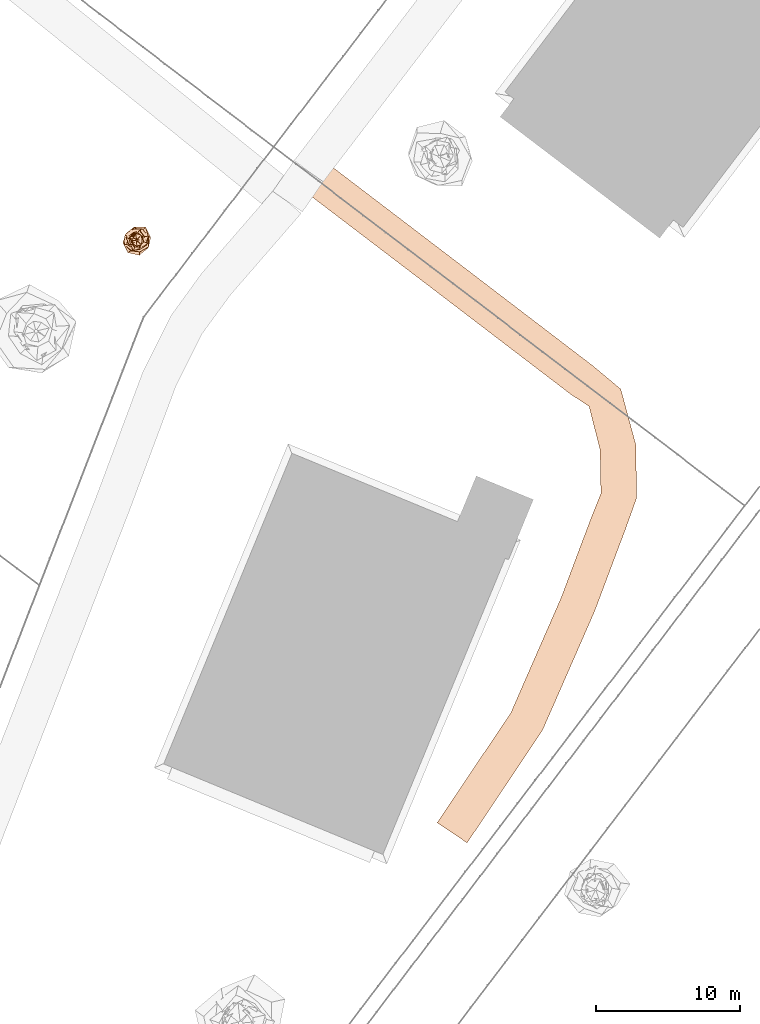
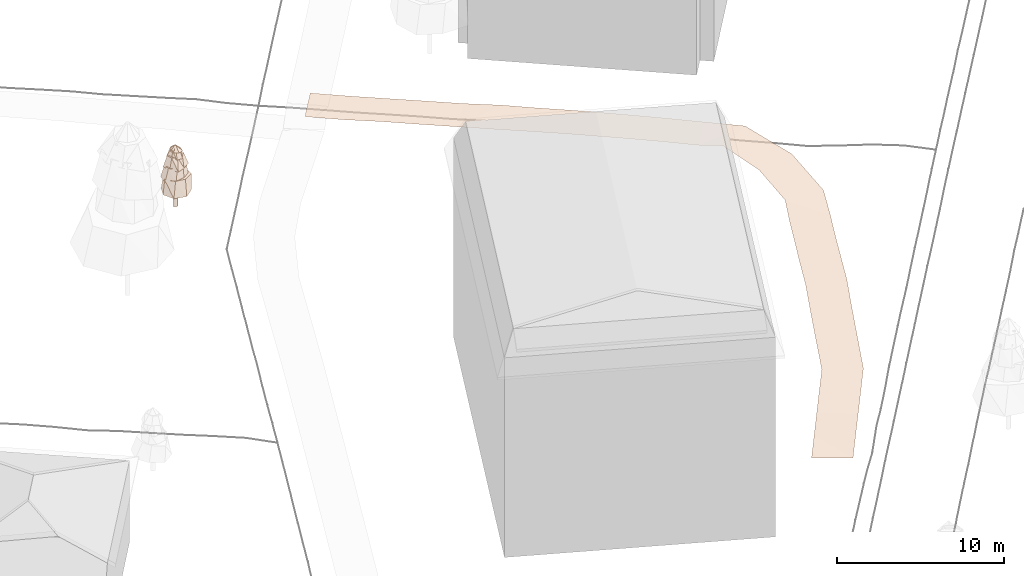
# Not in any storey, part 81 of 88: 2 geographic elements.
"""IFC4 model written with IfcOpenShell, lengths in metres."""

from ifc_helpers import new_model, si_unit, frame, origin_with_axes, place, context, subcontext, project, spatial, circle, extrude, faceted_brep, triangles, element, save


model = new_model("IFC4")

# Units and contexts
model_context = context("Model", 3, precision=1e-05, world=origin_with_axes())
body_context = subcontext(model_context, "Body", "Model", "MODEL_VIEW")
ifc_project = project(units=[si_unit("LENGTHUNIT", "METRE"), si_unit("AREAUNIT", "SQUARE_METRE"), si_unit("VOLUMEUNIT", "CUBIC_METRE"), si_unit("PLANEANGLEUNIT", "RADIAN")], contexts=[model_context])

# Sites
site_1_placement = place(None, origin_with_axes())
site_1 = spatial("IfcSite", under=ifc_project, at=site_1_placement, Name="CH907857693633", CompositionType="ELEMENT")
site_2_placement = place(None, origin_with_axes())
site_2 = spatial("IfcSite", under=site_1, at=site_2_placement, Name="Vegetation", CompositionType="ELEMENT")

# Geographic element
geographic_element_1_placement = place(None, frame((55.5640000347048, 160.037003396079, 7.91241455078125), z_axis=(0.0, 0.0, 1.0), x_axis=(1.0, 0.0, 0.0)))
element("IfcGeographicElement", 1, at=geographic_element_1_placement, inside=site_2, Name="Tree_einzelbaum", ObjectType="VEGETATION", PredefinedType="USERDEFINED", context=body_context, shape_type="Brep", body=[
    extrude(circle(Radius=0.15), origin_with_axes(), (0.0, 0.0, 1.0), 1.24176831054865),
    faceted_brep([(0.796583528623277, -0.547024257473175, 1.24176831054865), (0.193895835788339, -1.04392016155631, 1.24176831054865), (-0.592050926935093, -0.862151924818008, 1.24176831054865), (-0.946980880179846, -0.175890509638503, 1.24176831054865), (-0.70707329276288, 0.485556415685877, 1.24176831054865), (-0.168086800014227, 0.904966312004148, 1.24176831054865), (0.625172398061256, 0.910383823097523, 1.24176831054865), (0.985967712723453, 0.183131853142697, 1.24176831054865), (0.828826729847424, 0.241607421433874, 2.36745693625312), (0.328140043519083, 0.598162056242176, 2.36745693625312), (-0.231807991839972, 0.795210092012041, 2.36745693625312), (-0.616803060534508, 0.338366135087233, 2.36745693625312), (-0.884571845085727, -0.257857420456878, 2.36745693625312), (-0.402553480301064, -0.733809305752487, 2.36745693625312), (0.236427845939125, -0.811058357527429, 2.36745693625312), (0.841793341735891, -0.461791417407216, 2.36745693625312), (0.985967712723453, 0.183131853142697, 1.24176831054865), (0.625172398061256, 0.910383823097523, 1.24176831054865), (0.328140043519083, 0.598162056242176, 2.36745693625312), (0.828826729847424, 0.241607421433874, 2.36745693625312), (0.625172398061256, 0.910383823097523, 1.24176831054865), (-0.168086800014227, 0.904966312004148, 1.24176831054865), (-0.231807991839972, 0.795210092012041, 2.36745693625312), (0.328140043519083, 0.598162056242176, 2.36745693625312), (-0.168086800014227, 0.904966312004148, 1.24176831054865), (-0.70707329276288, 0.485556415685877, 1.24176831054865), (-0.616803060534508, 0.338366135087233, 2.36745693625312), (-0.231807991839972, 0.795210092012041, 2.36745693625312), (-0.70707329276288, 0.485556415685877, 1.24176831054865), (-0.946980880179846, -0.175890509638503, 1.24176831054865), (-0.884571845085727, -0.257857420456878, 2.36745693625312), (-0.616803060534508, 0.338366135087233, 2.36745693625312), (-0.946980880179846, -0.175890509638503, 1.24176831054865), (-0.592050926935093, -0.862151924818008, 1.24176831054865), (-0.402553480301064, -0.733809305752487, 2.36745693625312), (-0.884571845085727, -0.257857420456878, 2.36745693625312), (-0.592050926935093, -0.862151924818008, 1.24176831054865), (0.193895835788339, -1.04392016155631, 1.24176831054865), (0.236427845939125, -0.811058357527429, 2.36745693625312), (-0.402553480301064, -0.733809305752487, 2.36745693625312), (0.193895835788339, -1.04392016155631, 1.24176831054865), (0.796583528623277, -0.547024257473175, 1.24176831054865), (0.841793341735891, -0.461791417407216, 2.36745693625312), (0.236427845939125, -0.811058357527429, 2.36745693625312), (0.796583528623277, -0.547024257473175, 1.24176831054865), (0.985967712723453, 0.183131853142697, 1.24176831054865), (0.828826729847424, 0.241607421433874, 2.36745693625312), (0.841793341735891, -0.461791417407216, 2.36745693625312)], [[[0, 1, 2, 3, 4, 5, 6, 7]], [[8, 9, 10, 11, 12, 13, 14, 15]], [[16, 17, 18, 19]], [[20, 21, 22, 23]], [[24, 25, 26, 27]], [[28, 29, 30, 31]], [[32, 33, 34, 35]], [[36, 37, 38, 39]], [[40, 41, 42, 43]], [[44, 45, 46, 47]]]),
    faceted_brep([(0.725189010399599, -0.3531963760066, 2.19860364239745), (0.228966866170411, -0.663761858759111, 2.19860364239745), (-0.364796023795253, -0.749005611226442, 2.19860364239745), (-0.889024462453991, -0.306671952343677, 2.19860364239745), (-0.796820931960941, 0.388084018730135, 2.19860364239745), (-0.270157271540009, 0.783170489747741, 2.19860364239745), (0.385798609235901, 0.792128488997, 2.19860364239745), (0.82858284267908, 0.285822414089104, 2.19860364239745), (0.547489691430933, 0.252530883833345, 3.1320130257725), (0.250969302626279, 0.680707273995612, 3.1320130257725), (-0.237285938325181, 0.51443848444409, 3.1320130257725), (-0.606721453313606, 0.22369154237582, 3.1320130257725), (-0.653762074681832, -0.301549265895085, 3.1320130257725), (-0.221247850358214, -0.600093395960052, 3.1320130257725), (0.246618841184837, -0.534672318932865, 3.1320130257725), (0.619263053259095, -0.22831549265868, 3.1320130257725), (0.82858284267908, 0.285822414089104, 2.19860364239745), (0.385798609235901, 0.792128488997, 2.19860364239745), (0.250969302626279, 0.680707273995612, 3.1320130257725), (0.547489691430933, 0.252530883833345, 3.1320130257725), (0.385798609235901, 0.792128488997, 2.19860364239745), (-0.270157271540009, 0.783170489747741, 2.19860364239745), (-0.237285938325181, 0.51443848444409, 3.1320130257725), (0.250969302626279, 0.680707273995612, 3.1320130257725), (-0.270157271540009, 0.783170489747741, 2.19860364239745), (-0.796820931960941, 0.388084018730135, 2.19860364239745), (-0.606721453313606, 0.22369154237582, 3.1320130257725), (-0.237285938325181, 0.51443848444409, 3.1320130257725), (-0.796820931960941, 0.388084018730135, 2.19860364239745), (-0.889024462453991, -0.306671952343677, 2.19860364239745), (-0.653762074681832, -0.301549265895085, 3.1320130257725), (-0.606721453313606, 0.22369154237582, 3.1320130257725), (-0.889024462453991, -0.306671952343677, 2.19860364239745), (-0.364796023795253, -0.749005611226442, 2.19860364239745), (-0.221247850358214, -0.600093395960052, 3.1320130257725), (-0.653762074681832, -0.301549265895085, 3.1320130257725), (-0.364796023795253, -0.749005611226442, 2.19860364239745), (0.228966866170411, -0.663761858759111, 2.19860364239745), (0.246618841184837, -0.534672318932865, 3.1320130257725), (-0.221247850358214, -0.600093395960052, 3.1320130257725), (0.228966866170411, -0.663761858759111, 2.19860364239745), (0.725189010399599, -0.3531963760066, 2.19860364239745), (0.619263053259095, -0.22831549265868, 3.1320130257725), (0.246618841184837, -0.534672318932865, 3.1320130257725), (0.725189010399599, -0.3531963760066, 2.19860364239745), (0.82858284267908, 0.285822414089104, 2.19860364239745), (0.547489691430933, 0.252530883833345, 3.1320130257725), (0.619263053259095, -0.22831549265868, 3.1320130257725)], [[[0, 1, 2, 3, 4, 5, 6, 7]], [[8, 9, 10, 11, 12, 13, 14, 15]], [[16, 17, 18, 19]], [[20, 21, 22, 23]], [[24, 25, 26, 27]], [[28, 29, 30, 31]], [[32, 33, 34, 35]], [[36, 37, 38, 39]], [[40, 41, 42, 43]], [[44, 45, 46, 47]]]),
    faceted_brep([(0.78287347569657, -0.228873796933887, 2.99200161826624), (0.297666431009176, -0.543616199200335, 2.99200161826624), (-0.217221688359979, -0.743016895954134, 2.99200161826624), (-0.563069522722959, -0.308318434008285, 2.99200161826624), (-0.726165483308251, 0.212295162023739, 2.99200161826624), (-0.265523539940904, 0.484914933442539, 2.99200161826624), (0.204391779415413, 0.699131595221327, 2.99200161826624), (0.526632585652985, 0.288366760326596, 2.99200161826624), (0.393785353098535, 0.269966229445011, 3.80338015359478), (0.097343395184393, 0.521824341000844, 3.80338015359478), (-0.273263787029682, 0.398595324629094, 3.80338015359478), (-0.513830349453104, 0.0958521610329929, 3.80338015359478), (-0.414243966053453, -0.283991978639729, 3.80338015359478), (-0.0743477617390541, -0.39855268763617, 3.80338015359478), (0.267422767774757, -0.390075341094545, 3.80338015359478), (0.509701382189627, -0.0950819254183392, 3.80338015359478), (0.526632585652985, 0.288366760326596, 2.99200161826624), (0.204391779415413, 0.699131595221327, 2.99200161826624), (0.097343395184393, 0.521824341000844, 3.80338015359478), (0.393785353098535, 0.269966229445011, 3.80338015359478), (0.204391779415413, 0.699131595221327, 2.99200161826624), (-0.265523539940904, 0.484914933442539, 2.99200161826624), (-0.273263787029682, 0.398595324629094, 3.80338015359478), (0.097343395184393, 0.521824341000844, 3.80338015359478), (-0.265523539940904, 0.484914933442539, 2.99200161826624), (-0.726165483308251, 0.212295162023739, 2.99200161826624), (-0.513830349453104, 0.0958521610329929, 3.80338015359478), (-0.273263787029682, 0.398595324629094, 3.80338015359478), (-0.726165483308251, 0.212295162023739, 2.99200161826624), (-0.563069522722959, -0.308318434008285, 2.99200161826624), (-0.414243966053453, -0.283991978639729, 3.80338015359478), (-0.513830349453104, 0.0958521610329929, 3.80338015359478), (-0.563069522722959, -0.308318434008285, 2.99200161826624), (-0.217221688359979, -0.743016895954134, 2.99200161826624), (-0.0743477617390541, -0.39855268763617, 3.80338015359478), (-0.414243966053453, -0.283991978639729, 3.80338015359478), (-0.217221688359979, -0.743016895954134, 2.99200161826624), (0.297666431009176, -0.543616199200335, 2.99200161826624), (0.267422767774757, -0.390075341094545, 3.80338015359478), (-0.0743477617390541, -0.39855268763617, 3.80338015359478), (0.297666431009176, -0.543616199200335, 2.99200161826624), (0.78287347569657, -0.228873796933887, 2.99200161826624), (0.509701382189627, -0.0950819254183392, 3.80338015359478), (0.267422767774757, -0.390075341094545, 3.80338015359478), (0.78287347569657, -0.228873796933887, 2.99200161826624), (0.526632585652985, 0.288366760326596, 2.99200161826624), (0.393785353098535, 0.269966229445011, 3.80338015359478), (0.509701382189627, -0.0950819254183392, 3.80338015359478)], [[[0, 1, 2, 3, 4, 5, 6, 7]], [[8, 9, 10, 11, 12, 13, 14, 15]], [[16, 17, 18, 19]], [[20, 21, 22, 23]], [[24, 25, 26, 27]], [[28, 29, 30, 31]], [[32, 33, 34, 35]], [[36, 37, 38, 39]], [[40, 41, 42, 43]], [[44, 45, 46, 47]]]),
    faceted_brep([(0.399467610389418, -0.140665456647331, 3.6816733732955), (0.232269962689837, -0.484759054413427, 3.6816733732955), (-0.164834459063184, -0.468103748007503, 3.6816733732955), (-0.367032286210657, -0.175861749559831, 3.6816733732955), (-0.518006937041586, 0.182406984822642, 3.6816733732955), (-0.194156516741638, 0.405214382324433, 3.6816733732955), (0.148562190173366, 0.421893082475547, 3.6816733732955), (0.458392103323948, 0.219636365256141, 3.6816733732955), (0.264228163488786, 0.160847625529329, 4.1849373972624), (0.0809291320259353, 0.332761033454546, 4.1849373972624), (-0.183020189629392, 0.3006515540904, 4.1849373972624), (-0.284864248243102, 0.0692803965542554, 4.1849373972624), (-0.258424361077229, -0.157314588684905, 4.1849373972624), (-0.0691859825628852, -0.284476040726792, 4.1849373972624), (0.154421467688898, -0.253671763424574, 4.1849373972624), (0.254649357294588, -0.0619319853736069, 4.1849373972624), (0.458392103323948, 0.219636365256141, 3.6816733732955), (0.148562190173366, 0.421893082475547, 3.6816733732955), (0.0809291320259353, 0.332761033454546, 4.1849373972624), (0.264228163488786, 0.160847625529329, 4.1849373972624), (0.148562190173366, 0.421893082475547, 3.6816733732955), (-0.194156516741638, 0.405214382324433, 3.6816733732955), (-0.183020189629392, 0.3006515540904, 4.1849373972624), (0.0809291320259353, 0.332761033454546, 4.1849373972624), (-0.194156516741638, 0.405214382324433, 3.6816733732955), (-0.518006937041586, 0.182406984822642, 3.6816733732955), (-0.284864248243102, 0.0692803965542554, 4.1849373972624), (-0.183020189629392, 0.3006515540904, 4.1849373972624), (-0.518006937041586, 0.182406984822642, 3.6816733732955), (-0.367032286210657, -0.175861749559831, 3.6816733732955), (-0.258424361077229, -0.157314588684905, 4.1849373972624), (-0.284864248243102, 0.0692803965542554, 4.1849373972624), (-0.367032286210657, -0.175861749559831, 3.6816733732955), (-0.164834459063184, -0.468103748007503, 3.6816733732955), (-0.0691859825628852, -0.284476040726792, 4.1849373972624), (-0.258424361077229, -0.157314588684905, 4.1849373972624), (-0.164834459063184, -0.468103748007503, 3.6816733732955), (0.232269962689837, -0.484759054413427, 3.6816733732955), (0.154421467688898, -0.253671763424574, 4.1849373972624), (-0.0691859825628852, -0.284476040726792, 4.1849373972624), (0.232269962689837, -0.484759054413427, 3.6816733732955), (0.399467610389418, -0.140665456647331, 3.6816733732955), (0.254649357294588, -0.0619319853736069, 4.1849373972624), (0.154421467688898, -0.253671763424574, 4.1849373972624), (0.399467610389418, -0.140665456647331, 3.6816733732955), (0.458392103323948, 0.219636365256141, 3.6816733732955), (0.264228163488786, 0.160847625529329, 4.1849373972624), (0.254649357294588, -0.0619319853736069, 4.1849373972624)], [[[0, 1, 2, 3, 4, 5, 6, 7]], [[8, 9, 10, 11, 12, 13, 14, 15]], [[16, 17, 18, 19]], [[20, 21, 22, 23]], [[24, 25, 26, 27]], [[28, 29, 30, 31]], [[32, 33, 34, 35]], [[36, 37, 38, 39]], [[40, 41, 42, 43]], [[44, 45, 46, 47]]]),
    faceted_brep([(0.344987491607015, -0.306297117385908, 4.10944779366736), (0.0248613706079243, -0.418497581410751, 4.10944779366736), (-0.232949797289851, -0.262375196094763, 4.10944779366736), (-0.34721248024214, -0.0206265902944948, 4.10944779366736), (-0.263604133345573, 0.234040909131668, 4.10944779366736), (-0.0273406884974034, 0.46023255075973, 4.10944779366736), (0.321736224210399, 0.362376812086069, 4.10944779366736), (0.392283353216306, 0.023304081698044, 4.10944779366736), (0.0511751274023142, 0.0082237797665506, 4.4635879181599), (0.0254888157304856, 0.035249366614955, 4.4635879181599), (-0.00697290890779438, 0.0433911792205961, 4.4635879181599), (-0.0447284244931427, 0.0323431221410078, 4.4635879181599), (-0.0522259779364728, -0.00839265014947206, 4.4635879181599), (-0.0255665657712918, -0.0353568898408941, 4.4635879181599), (0.00922294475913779, -0.0573927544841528, 4.4635879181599), (0.0368801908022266, -0.0266680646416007, 4.4635879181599), (0.392283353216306, 0.023304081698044, 4.10944779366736), (0.321736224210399, 0.362376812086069, 4.10944779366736), (0.0254888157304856, 0.035249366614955, 4.4635879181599), (0.0511751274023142, 0.0082237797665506, 4.4635879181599), (0.321736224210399, 0.362376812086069, 4.10944779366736), (-0.0273406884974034, 0.46023255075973, 4.10944779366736), (-0.00697290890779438, 0.0433911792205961, 4.4635879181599), (0.0254888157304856, 0.035249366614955, 4.4635879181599), (-0.0273406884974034, 0.46023255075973, 4.10944779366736), (-0.263604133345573, 0.234040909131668, 4.10944779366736), (-0.0447284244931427, 0.0323431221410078, 4.4635879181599), (-0.00697290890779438, 0.0433911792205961, 4.4635879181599), (-0.263604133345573, 0.234040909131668, 4.10944779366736), (-0.34721248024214, -0.0206265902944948, 4.10944779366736), (-0.0522259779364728, -0.00839265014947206, 4.4635879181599), (-0.0447284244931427, 0.0323431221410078, 4.4635879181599), (-0.34721248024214, -0.0206265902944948, 4.10944779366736), (-0.232949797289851, -0.262375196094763, 4.10944779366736), (-0.0255665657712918, -0.0353568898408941, 4.4635879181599), (-0.0522259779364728, -0.00839265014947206, 4.4635879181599), (-0.232949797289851, -0.262375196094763, 4.10944779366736), (0.0248613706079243, -0.418497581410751, 4.10944779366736), (0.00922294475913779, -0.0573927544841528, 4.4635879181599), (-0.0255665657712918, -0.0353568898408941, 4.4635879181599), (0.0248613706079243, -0.418497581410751, 4.10944779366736), (0.344987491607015, -0.306297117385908, 4.10944779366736), (0.0368801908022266, -0.0266680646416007, 4.4635879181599), (0.00922294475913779, -0.0573927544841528, 4.4635879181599), (0.344987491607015, -0.306297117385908, 4.10944779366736), (0.392283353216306, 0.023304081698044, 4.10944779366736), (0.0511751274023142, 0.0082237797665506, 4.4635879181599), (0.0368801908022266, -0.0266680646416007, 4.4635879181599)], [[[0, 1, 2, 3, 4, 5, 6, 7]], [[8, 9, 10, 11, 12, 13, 14, 15]], [[16, 17, 18, 19]], [[20, 21, 22, 23]], [[24, 25, 26, 27]], [[28, 29, 30, 31]], [[32, 33, 34, 35]], [[36, 37, 38, 39]], [[40, 41, 42, 43]], [[44, 45, 46, 47]]]),
])

# Site
site_3_placement = place(None, origin_with_axes())
site_3 = spatial("IfcSite", under=site_1, at=site_3_placement, Name="Roads", CompositionType="ELEMENT")

# Geographic element
geographic_element_2_placement = place(None, origin_with_axes())
element("IfcGeographicElement", 2, at=geographic_element_2_placement, inside=site_3, Name="Road_weg", ObjectType="ROAD", PredefinedType="USERDEFINED", context=body_context, shape_type="Tessellation", body=[
    triangles([(76.3887054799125, 119.690023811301, 6.6154907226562), (77.6779554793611, 121.613273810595, 6.62153320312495), (78.9672054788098, 123.536523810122, 6.6591918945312), (80.2564554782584, 125.459773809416, 6.67829589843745), (81.4891209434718, 127.290111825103, 6.67670898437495), (82.3257968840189, 129.215512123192, 6.6967895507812), (83.2127968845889, 131.243012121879, 6.68269042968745), (84.0997968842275, 133.270512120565, 6.73542480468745), (84.9745290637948, 135.268978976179, 6.8518188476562), (85.6714136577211, 137.124523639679, 6.9775512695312), (86.3809136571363, 139.012273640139, 7.2077758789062), (87.0904136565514, 140.900023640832, 7.4465454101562), (87.7294255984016, 142.501219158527, 7.70344238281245), (87.6703993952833, 145.527376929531, 8.09919433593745), (86.9083367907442, 148.532662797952, 8.31330566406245), (85.6302080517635, 149.370372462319, 8.2963989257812), (84.01120805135, 150.607086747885, 8.3651245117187), (82.3922080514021, 151.843801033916, 8.39777832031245), (80.7732080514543, 153.080515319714, 8.40961914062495), (79.1542080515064, 154.31722960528, 8.41743164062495), (77.5352080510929, 155.553943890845, 8.3927124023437), (75.9167657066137, 156.790232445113, 8.3597534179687), (74.0778571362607, 158.191857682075, 8.34211425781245), (72.2384571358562, 159.593857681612, 8.3206909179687), (70.3990571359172, 160.995857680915, 8.31403808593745), (68.5596571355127, 162.397857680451, 8.24592285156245), (66.7202571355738, 163.799857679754, 8.2614868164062), (78.4652945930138, 118.297982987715, 6.7025268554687), (79.7545445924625, 120.221232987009, 6.7663696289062), (81.0437945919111, 122.144482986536, 6.75483398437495), (82.3330445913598, 124.06773298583, 6.75812988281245), (83.6788791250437, 126.083894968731, 6.74470214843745), (84.6162031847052, 128.213494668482, 6.7536743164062), (85.5032031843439, 130.240994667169, 6.7896850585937), (86.3902031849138, 132.268494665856, 6.8484008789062), (87.2894710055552, 134.325027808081, 7.0047729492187), (88.0115864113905, 136.244983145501, 7.1348999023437), (88.7210864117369, 138.132733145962, 7.26411132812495), (89.430586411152, 140.020483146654, 7.5289428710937), (90.2105744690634, 142.19478762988, 7.7500122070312), (90.1456006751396, 145.878629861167, 8.1912963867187), (89.1076632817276, 149.721343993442, 8.27827148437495), (87.1477920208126, 151.357062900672, 8.27387695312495), (85.5287920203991, 152.593777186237, 8.3382690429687), (83.9097920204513, 153.830491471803, 8.37922363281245), (82.2907920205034, 155.067205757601, 8.40192871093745), (80.6717920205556, 156.303920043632, 8.40754394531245), (79.0527920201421, 157.540634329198, 8.3903930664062), (77.4332343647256, 158.777774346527, 8.4017456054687), (75.5933429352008, 160.180149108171, 8.3122680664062), (73.7539429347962, 161.582149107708, 8.29328613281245), (71.9145429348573, 162.984149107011, 8.26606445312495), (70.0751429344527, 164.386149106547, 8.24482421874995), (68.2357429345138, 165.788149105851, 8.25617675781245)], [[1, 28, 2], [28, 29, 2], [2, 29, 3], [29, 30, 3], [3, 30, 4], [30, 31, 4], [4, 31, 5], [31, 32, 5], [5, 32, 6], [32, 33, 6], [6, 33, 7], [33, 34, 7], [7, 34, 8], [34, 35, 8], [8, 35, 9], [35, 36, 9], [9, 36, 10], [36, 37, 10], [10, 37, 11], [37, 38, 11], [11, 38, 12], [38, 39, 12], [12, 39, 13], [39, 40, 13], [13, 40, 14], [40, 41, 14], [14, 41, 15], [41, 42, 15], [15, 42, 16], [42, 43, 16], [16, 43, 17], [43, 44, 17], [17, 44, 18], [44, 45, 18], [18, 45, 19], [45, 46, 19], [19, 46, 20], [46, 47, 20], [20, 47, 21], [47, 48, 21], [21, 48, 22], [48, 49, 22], [22, 49, 23], [49, 50, 23], [23, 50, 24], [50, 51, 24], [24, 51, 25], [51, 52, 25], [25, 52, 26], [52, 53, 26], [26, 53, 27], [53, 54, 27]]),
])

save(model, "model.ifc")
